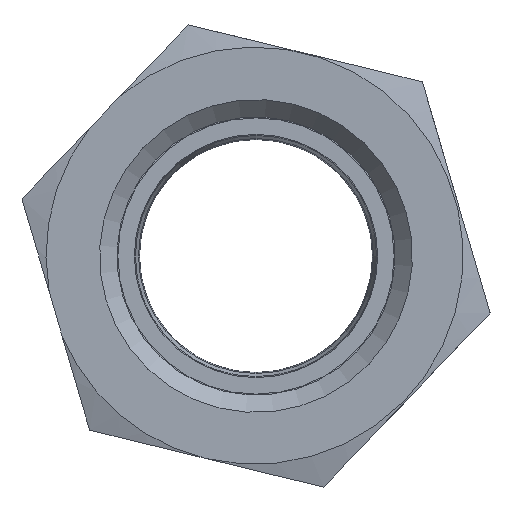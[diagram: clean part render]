
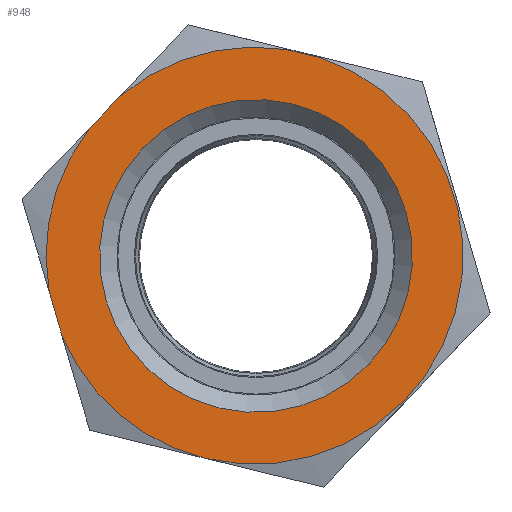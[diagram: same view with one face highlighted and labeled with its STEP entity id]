
A CAD part, left-side view. The second image highlights one B-rep face of the part: STEP entity #948.
In plain terms, the highlighted planar face has unit normal (-1, 0, 0) as drawn and (0, 0, 1) by its records, which use the part's own axes.
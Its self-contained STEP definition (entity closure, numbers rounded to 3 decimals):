
#875=CARTESIAN_POINT('',(9.,-0.085,14.));
#876=VERTEX_POINT('',#875);
#877=CARTESIAN_POINT('',(0.,-0.085,14.));
#878=DIRECTION('',(0.0,0.0,1.0));
#879=DIRECTION('',(-1.0,0.0,0.0));
#880=AXIS2_PLACEMENT_3D('',#877,#878,#879);
#881=CIRCLE('',#880,9.0);
#882=EDGE_CURVE('',#876,#876,#881,.T.);
#887=CARTESIAN_POINT('',(0.,-0.085,14.));
#888=DIRECTION('',(0.0,0.0,1.0));
#889=DIRECTION('',(1.0,0.0,0.0));
#890=AXIS2_PLACEMENT_3D('',#887,#888,#889);
#891=PLANE('',#890);
#892=CARTESIAN_POINT('',(-7.113,9.664,14.));
#893=VERTEX_POINT('',#892);
#894=CARTESIAN_POINT('',(-12.,0.068,14.));
#895=VERTEX_POINT('',#894);
#896=CARTESIAN_POINT('',(0.0,0.0,14.));
#897=DIRECTION('',(0.0,0.0,1.0));
#898=DIRECTION('',(0.0,1.0,0.0));
#899=AXIS2_PLACEMENT_3D('',#896,#897,#898);
#900=CIRCLE('',#899,12.0);
#901=EDGE_CURVE('',#893,#895,#900,.T.);
#902=ORIENTED_EDGE('',*,*,#901,.T.);
#903=CARTESIAN_POINT('',(-12.,-0.068,14.));
#904=VERTEX_POINT('',#903);
#905=CARTESIAN_POINT('',(-12.,-0.068,14.));
#906=DIRECTION('',(0.0,1.0,0.0));
#907=VECTOR('',#906,0.135);
#908=LINE('',#905,#907);
#909=EDGE_CURVE('',#904,#895,#908,.T.);
#910=ORIENTED_EDGE('',*,*,#909,.F.);
#911=CARTESIAN_POINT('',(7.112,9.665,14.));
#912=VERTEX_POINT('',#911);
#913=CARTESIAN_POINT('',(0.0,0.0,14.));
#914=DIRECTION('',(0.0,0.0,1.0));
#915=DIRECTION('',(0.0,1.0,0.0));
#916=AXIS2_PLACEMENT_3D('',#913,#914,#915);
#917=CIRCLE('',#916,12.0);
#918=EDGE_CURVE('',#904,#912,#917,.T.);
#919=ORIENTED_EDGE('',*,*,#918,.T.);
#920=CARTESIAN_POINT('',(4.814,10.992,14.));
#921=VERTEX_POINT('',#920);
#922=CARTESIAN_POINT('',(4.814,10.992,14.));
#923=DIRECTION('',(0.866,-0.5,0.0));
#924=VECTOR('',#923,2.653);
#925=LINE('',#922,#924);
#926=EDGE_CURVE('',#921,#912,#925,.T.);
#927=ORIENTED_EDGE('',*,*,#926,.F.);
#928=CARTESIAN_POINT('',(-4.813,10.993,14.));
#929=VERTEX_POINT('',#928);
#930=CARTESIAN_POINT('',(0.0,0.0,14.));
#931=DIRECTION('',(0.0,0.0,1.0));
#932=DIRECTION('',(0.0,1.0,0.0));
#933=AXIS2_PLACEMENT_3D('',#930,#931,#932);
#934=CIRCLE('',#933,12.0);
#935=EDGE_CURVE('',#921,#929,#934,.T.);
#936=ORIENTED_EDGE('',*,*,#935,.T.);
#937=CARTESIAN_POINT('',(-7.113,9.664,14.));
#938=DIRECTION('',(0.866,0.5,0.0));
#939=VECTOR('',#938,2.657);
#940=LINE('',#937,#939);
#941=EDGE_CURVE('',#893,#929,#940,.T.);
#942=ORIENTED_EDGE('',*,*,#941,.F.);
#943=EDGE_LOOP('',(#902,#910,#919,#927,#936,#942));
#944=FACE_OUTER_BOUND('',#943,.T.);
#945=ORIENTED_EDGE('',*,*,#882,.F.);
#946=EDGE_LOOP('',(#945));
#947=FACE_BOUND('',#946,.T.);
#948=ADVANCED_FACE('',(#944,#947),#891,.T.);
